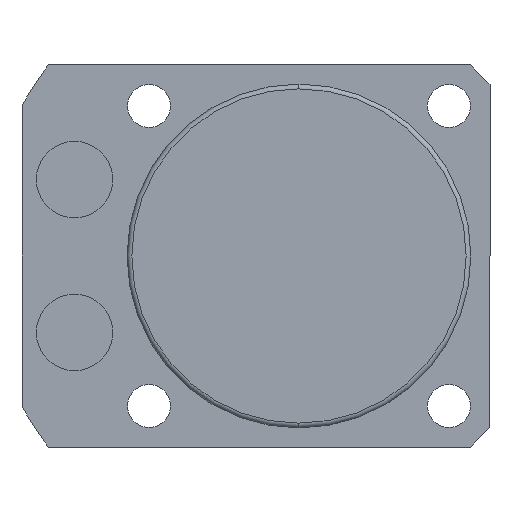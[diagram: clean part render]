
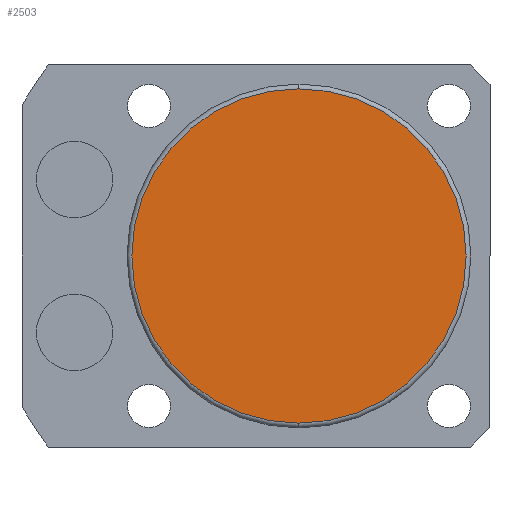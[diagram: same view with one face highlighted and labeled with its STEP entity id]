
A CAD part, front view. The second image highlights one B-rep face of the part: STEP entity #2503.
In plain terms, the highlighted planar face has unit normal (0, -1, 0).
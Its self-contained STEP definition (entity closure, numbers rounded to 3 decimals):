
#92 = CIRCLE ( 'NONE', #1969, 17.5 ) ;
#132 = VERTEX_POINT ( 'NONE', #957 ) ;
#204 = AXIS2_PLACEMENT_3D ( 'NONE', #1878, #1018, #2086 ) ;
#467 = FACE_OUTER_BOUND ( 'NONE', #951, .T. ) ;
#502 = CARTESIAN_POINT ( 'NONE',  ( 0., -125.5, 0. ) ) ;
#617 = EDGE_CURVE ( 'NONE', #1901, #132, #1572, .T. ) ;
#875 = CARTESIAN_POINT ( 'NONE',  ( 0., -125.5, 17.5 ) ) ;
#947 = DIRECTION ( 'NONE',  ( 0., -1., 0. ) ) ;
#951 = EDGE_LOOP ( 'NONE', ( #1597, #2631 ) ) ;
#957 = CARTESIAN_POINT ( 'NONE',  ( 0., -125.5, -17.5 ) ) ;
#1018 = DIRECTION ( 'NONE',  ( 0., -1., 0. ) ) ;
#1173 = DIRECTION ( 'NONE',  ( 0., 0., -1. ) ) ;
#1520 = DIRECTION ( 'NONE',  ( 0., 0., -1. ) ) ;
#1572 = CIRCLE ( 'NONE', #204, 17.5 ) ;
#1597 = ORIENTED_EDGE ( 'NONE', *, *, #2688, .T. ) ;
#1646 = AXIS2_PLACEMENT_3D ( 'NONE', #502, #1950, #1520 ) ;
#1733 = PLANE ( 'NONE',  #1646 ) ;
#1878 = CARTESIAN_POINT ( 'NONE',  ( 0., -125.5, 0. ) ) ;
#1901 = VERTEX_POINT ( 'NONE', #875 ) ;
#1950 = DIRECTION ( 'NONE',  ( 0., -1., 0. ) ) ;
#1969 = AXIS2_PLACEMENT_3D ( 'NONE', #2412, #947, #1173 ) ;
#2086 = DIRECTION ( 'NONE',  ( 0., 0., -1. ) ) ;
#2412 = CARTESIAN_POINT ( 'NONE',  ( 0., -125.5, 0. ) ) ;
#2503 = ADVANCED_FACE ( 'NONE', ( #467 ), #1733, .T. ) ;
#2631 = ORIENTED_EDGE ( 'NONE', *, *, #617, .T. ) ;
#2688 = EDGE_CURVE ( 'NONE', #132, #1901, #92, .T. ) ;
